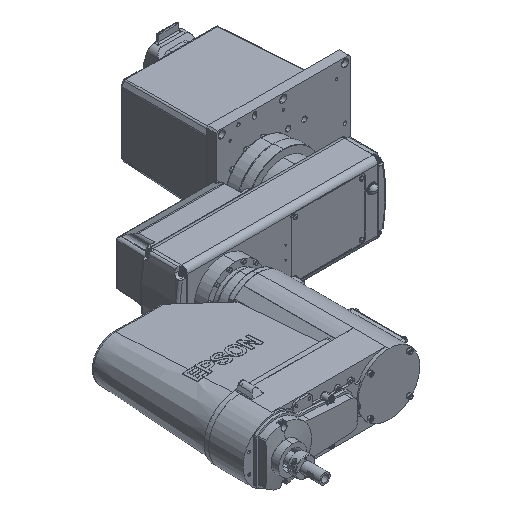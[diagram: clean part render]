
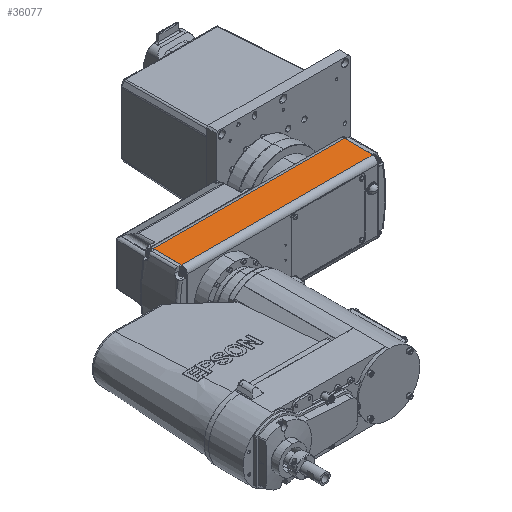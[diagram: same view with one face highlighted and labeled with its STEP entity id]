
A CAD part, isometric view. The second image highlights one B-rep face of the part: STEP entity #36077.
In plain terms, the highlighted planar face has unit normal (0, 0, 1) as drawn and (0, 0, -1) by its records, which use the part's own axes.
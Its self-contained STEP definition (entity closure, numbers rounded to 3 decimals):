
#1590 = EDGE_CURVE ( 'NONE', #42764, #16821, #131838, .T. ) ;
#2242 = CARTESIAN_POINT ( 'NONE',  ( -238., 22.667, -55.5 ) ) ;
#7791 = EDGE_CURVE ( 'NONE', #132069, #42764, #54083, .T. ) ;
#13282 = CARTESIAN_POINT ( 'NONE',  ( 56., 52., -55.5 ) ) ;
#14258 = CARTESIAN_POINT ( 'NONE',  ( -238., 37.333, -55.5 ) ) ;
#16821 = VERTEX_POINT ( 'NONE', #131803 ) ;
#27167 = DIRECTION ( 'NONE',  ( 1., 0., 0. ) ) ;
#31589 = CARTESIAN_POINT ( 'NONE',  ( 56., 52., -55.5 ) ) ;
#33503 = CARTESIAN_POINT ( 'NONE',  ( -238., 8., -55.5 ) ) ;
#34189 = CARTESIAN_POINT ( 'NONE',  ( -140., 8., -55.5 ) ) ;
#34463 = CARTESIAN_POINT ( 'NONE',  ( 56., 37.333, -55.5 ) ) ;
#35165 = CARTESIAN_POINT ( 'NONE',  ( 56., 52., -55.5 ) ) ;
#35669 = CARTESIAN_POINT ( 'NONE',  ( 71., 8., -55.5 ) ) ;
#36077 = ADVANCED_FACE ( 'NONE', ( #38449 ), #132995, .F. ) ;
#38449 = FACE_OUTER_BOUND ( 'NONE', #51220, .T. ) ;
#39326 = EDGE_CURVE ( 'NONE', #129216, #132069, #127972, .T. ) ;
#42764 = VERTEX_POINT ( 'NONE', #96726 ) ;
#44157 = CARTESIAN_POINT ( 'NONE',  ( 56., 8., -55.5 ) ) ;
#45215 = ORIENTED_EDGE ( 'NONE', *, *, #1590, .F. ) ;
#46140 = CARTESIAN_POINT ( 'NONE',  ( -238., 52., -55.5 ) ) ;
#50893 = ORIENTED_EDGE ( 'NONE', *, *, #7791, .F. ) ;
#51220 = EDGE_LOOP ( 'NONE', ( #78241, #104256, #45215, #50893 ) ) ;
#53098 = EDGE_CURVE ( 'NONE', #16821, #129216, #55043, .T. ) ;
#54083 = B_SPLINE_CURVE_WITH_KNOTS ( 'NONE', 3,
 ( #31589, #75004, #140258, #64368 ),
 .UNSPECIFIED., .F., .F.,
 ( 4, 4 ),
 ( 0., 1. ),
 .UNSPECIFIED. ) ;
#55043 = B_SPLINE_CURVE_WITH_KNOTS ( 'NONE', 3,
 ( #33503, #34189, #131515, #44157 ),
 .UNSPECIFIED., .F., .F.,
 ( 4, 4 ),
 ( 0., 1. ),
 .UNSPECIFIED. ) ;
#64368 = CARTESIAN_POINT ( 'NONE',  ( -238., 52., -55.5 ) ) ;
#70023 = AXIS2_PLACEMENT_3D ( 'NONE', #35669, #80539, #27167 ) ;
#74974 = CARTESIAN_POINT ( 'NONE',  ( 56., 8., -55.5 ) ) ;
#75004 = CARTESIAN_POINT ( 'NONE',  ( -42., 52., -55.5 ) ) ;
#78241 = ORIENTED_EDGE ( 'NONE', *, *, #39326, .F. ) ;
#79333 = CARTESIAN_POINT ( 'NONE',  ( 56., 22.667, -55.5 ) ) ;
#80539 = DIRECTION ( 'NONE',  ( 0., 0., 1. ) ) ;
#96726 = CARTESIAN_POINT ( 'NONE',  ( -238., 52., -55.5 ) ) ;
#104256 = ORIENTED_EDGE ( 'NONE', *, *, #53098, .F. ) ;
#121880 = CARTESIAN_POINT ( 'NONE',  ( 56., 8., -55.5 ) ) ;
#127972 = B_SPLINE_CURVE_WITH_KNOTS ( 'NONE', 3,
 ( #121880, #79333, #34463, #35165 ),
 .UNSPECIFIED., .F., .F.,
 ( 4, 4 ),
 ( 0., 1. ),
 .UNSPECIFIED. ) ;
#129216 = VERTEX_POINT ( 'NONE', #74974 ) ;
#131515 = CARTESIAN_POINT ( 'NONE',  ( -42., 8., -55.5 ) ) ;
#131803 = CARTESIAN_POINT ( 'NONE',  ( -238., 8., -55.5 ) ) ;
#131838 = B_SPLINE_CURVE_WITH_KNOTS ( 'NONE', 3,
 ( #46140, #14258, #2242, #133478 ),
 .UNSPECIFIED., .F., .F.,
 ( 4, 4 ),
 ( 0., 1. ),
 .UNSPECIFIED. ) ;
#132069 = VERTEX_POINT ( 'NONE', #13282 ) ;
#132995 = PLANE ( 'NONE',  #70023 ) ;
#133478 = CARTESIAN_POINT ( 'NONE',  ( -238., 8., -55.5 ) ) ;
#140258 = CARTESIAN_POINT ( 'NONE',  ( -140., 52., -55.5 ) ) ;
